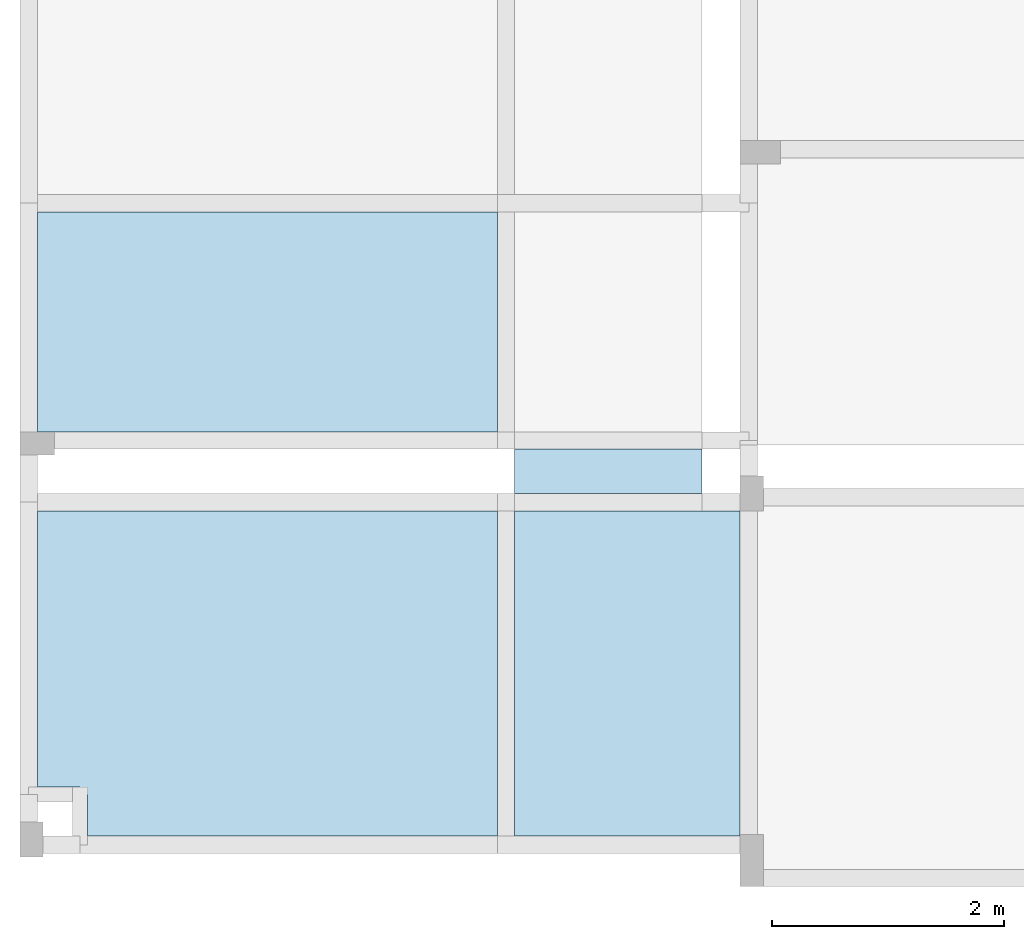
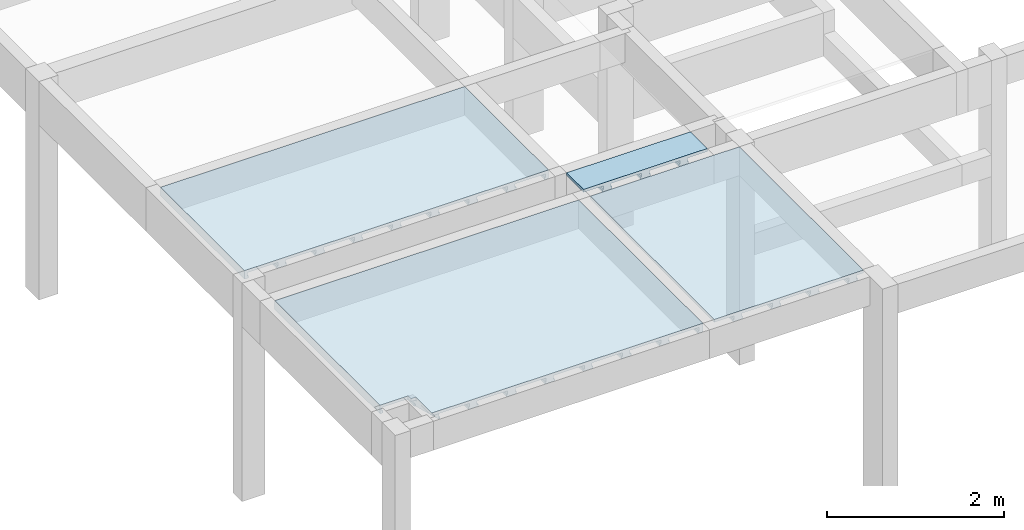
# One storey, part 8 of 21: 4 slabs.
"""IFC4 building model written with IfcOpenShell, lengths in centimetres."""

from ifc_helpers import new_model, si_unit, derived_unit, frame, origin_with_axes, place, context, project, spatial, polyline, outline, extrude, faceted_brep, material, element, save


model = new_model("IFC4")

# Units and contexts
model_context = context("Model", 3, precision=1e-05, world=origin_with_axes(), identifier="Body")
ifc_project = project(units=[si_unit("LENGTHUNIT", "METRE", prefix="CENTI"), si_unit("VOLUMEUNIT", "CUBIC_METRE"), si_unit("AREAUNIT", "SQUARE_METRE"), si_unit("POWERUNIT", "WATT"), si_unit("LUMINOUSFLUXUNIT", "LUMEN"), si_unit("ELECTRICCURRENTUNIT", "AMPERE"), si_unit("PRESSUREUNIT", "PASCAL", prefix="KILO"), si_unit("MASSUNIT", "GRAM", prefix="KILO"), si_unit("PLANEANGLEUNIT", "RADIAN"), derived_unit("VOLUMETRICFLOWRATEUNIT", [(si_unit("LENGTHUNIT", "METRE"), 3), (si_unit("TIMEUNIT", "SECOND"), -1)])], contexts=[model_context])

# Site, building, storey
site_placement = place(None, origin_with_axes())
site = spatial("IfcSite", under=ifc_project, at=site_placement)
building_placement = place(site_placement, frame((0.0, 0.0, -295.0)))
building = spatial("IfcBuilding", under=site, at=building_placement)
placement_1 = place(building_placement, origin_with_axes())
placement_2 = place(placement_1, frame((0.0, 0.0, 101.0), z_axis=(0.0, 0.0, 1.0), x_axis=(1.0, 0.0, 0.0)))
placement_3 = place(placement_2, frame((0.0, 0.0, 204.0), z_axis=(0.0, 0.0, 1.0), x_axis=(1.0, 0.0, 0.0)))
placement_4 = place(placement_3, frame((0.0, 0.0, 292.0), z_axis=(0.0, 0.0, 1.0), x_axis=(1.0, 0.0, 0.0)))
storey_placement = place(placement_4, frame((0.0, 0.0, 302.0), z_axis=(0.0, 0.0, 1.0), x_axis=(1.0, 0.0, 0.0)))
storey = spatial("IfcBuildingStorey", under=building, at=storey_placement, Name="PAVTO 02", CompositionType="ELEMENT", Elevation=604.0)

# Slabs
ifc_material = material(Name="Concreto")
slab_1_placement = place(storey_placement, frame((765.4, -6685.0395, 0.0), z_axis=(0.0, 0.0, 1.0), x_axis=(1.0, 0.0, 0.0)))
element("IfcSlab", 1, at=slab_1_placement, inside=storey, material=ifc_material, Name="L231", PredefinedType="FLOOR", context=model_context, shape_type="SolidModel", body=[
    extrude(outline(polyline([(198.67, 95.0), (-198.669, 95.0), (-198.67, -94.999), (198.67, -94.999), (198.67, 95.0), (198.67, 95.0)])), frame((0.0, -0.0005, -4.0), z_axis=(0.0, 0.0, 1.0), x_axis=(1.0, 0.0, 0.0)), (0.0, 0.0, 1.0), 4.0),
    faceted_brep([(-5.0, -94.9995, -12.0), (-5.0, 94.9995, -12.0), (5.0, 94.9995, -12.0), (5.0, -94.9995, -12.0), (5.0, -94.9995, -4.0), (5.0, 94.9995, -4.0), (-5.0, 94.9995, -4.0), (-5.0, -94.9995, -4.0)], [[[0, 1, 2, 3]], [[4, 5, 6, 7]], [[4, 3, 5]], [[3, 2, 5]], [[5, 2, 6]], [[2, 1, 6]], [[6, 1, 7]], [[1, 0, 7]], [[7, 0, 4]], [[0, 3, 4]]]),
    faceted_brep([(-6.5, -94.9995, -12.0), (-6.5, 94.9995, -12.0), (-5.0, 94.9995, -12.0), (-5.0, -94.9995, -12.0), (-5.0, -94.9995, -9.0), (-5.0, 94.9995, -9.0), (-6.5, 94.9995, -9.0), (-6.5, -94.9995, -9.0)], [[[0, 1, 2, 3]], [[4, 5, 6, 7]], [[4, 3, 5]], [[3, 2, 5]], [[5, 2, 6]], [[2, 1, 6]], [[6, 1, 7]], [[1, 0, 7]], [[7, 0, 4]], [[0, 3, 4]]]),
    faceted_brep([(5.0, -94.9995, -12.0), (5.0, 94.9995, -12.0), (6.5, 94.9995, -12.0), (6.5, -94.9995, -12.0), (6.5, -94.9995, -9.0), (6.5, 94.9995, -9.0), (5.0, 94.9995, -9.0), (5.0, -94.9995, -9.0)], [[[0, 1, 2, 3]], [[4, 5, 6, 7]], [[4, 3, 5]], [[3, 2, 5]], [[5, 2, 6]], [[2, 1, 6]], [[6, 1, 7]], [[1, 0, 7]], [[7, 0, 4]], [[0, 3, 4]]]),
    faceted_brep([(-55.0, -94.9995, -12.0), (-55.0, 94.9995, -12.0), (-45.0, 94.9995, -12.0), (-45.0, -94.9995, -12.0), (-45.0, -94.9995, -4.0), (-45.0, 94.9995, -4.0), (-55.0, 94.9995, -4.0), (-55.0, -94.9995, -4.0)], [[[0, 1, 2, 3]], [[4, 5, 6, 7]], [[4, 3, 5]], [[3, 2, 5]], [[5, 2, 6]], [[2, 1, 6]], [[6, 1, 7]], [[1, 0, 7]], [[7, 0, 4]], [[0, 3, 4]]]),
    faceted_brep([(-56.5, -94.9995, -12.0), (-56.5, 94.9995, -12.0), (-55.0, 94.9995, -12.0), (-55.0, -94.9995, -12.0), (-55.0, -94.9995, -9.0), (-55.0, 94.9995, -9.0), (-56.5, 94.9995, -9.0), (-56.5, -94.9995, -9.0)], [[[0, 1, 2, 3]], [[4, 5, 6, 7]], [[4, 3, 5]], [[3, 2, 5]], [[5, 2, 6]], [[2, 1, 6]], [[6, 1, 7]], [[1, 0, 7]], [[7, 0, 4]], [[0, 3, 4]]]),
    faceted_brep([(-45.0, -94.9995, -12.0), (-45.0, 94.9995, -12.0), (-43.5, 94.9995, -12.0), (-43.5, -94.9995, -12.0), (-43.5, -94.9995, -9.0), (-43.5, 94.9995, -9.0), (-45.0, 94.9995, -9.0), (-45.0, -94.9995, -9.0)], [[[0, 1, 2, 3]], [[4, 5, 6, 7]], [[4, 3, 5]], [[3, 2, 5]], [[5, 2, 6]], [[2, 1, 6]], [[6, 1, 7]], [[1, 0, 7]], [[7, 0, 4]], [[0, 3, 4]]]),
    faceted_brep([(-105.0, -94.9995, -12.0), (-105.0, 94.9995, -12.0), (-95.0, 94.9995, -12.0), (-95.0, -94.9995, -12.0), (-95.0, -94.9995, -4.0), (-95.0, 94.9995, -4.0), (-105.0, 94.9995, -4.0), (-105.0, -94.9995, -4.0)], [[[0, 1, 2, 3]], [[4, 5, 6, 7]], [[4, 3, 5]], [[3, 2, 5]], [[5, 2, 6]], [[2, 1, 6]], [[6, 1, 7]], [[1, 0, 7]], [[7, 0, 4]], [[0, 3, 4]]]),
    faceted_brep([(-106.5, -94.9995, -12.0), (-106.5, 94.9995, -12.0), (-105.0, 94.9995, -12.0), (-105.0, -94.9995, -12.0), (-105.0, -94.9995, -9.0), (-105.0, 94.9995, -9.0), (-106.5, 94.9995, -9.0), (-106.5, -94.9995, -9.0)], [[[0, 1, 2, 3]], [[4, 5, 6, 7]], [[4, 3, 5]], [[3, 2, 5]], [[5, 2, 6]], [[2, 1, 6]], [[6, 1, 7]], [[1, 0, 7]], [[7, 0, 4]], [[0, 3, 4]]]),
    faceted_brep([(-95.0, -94.9995, -12.0), (-95.0, 94.9995, -12.0), (-93.5, 94.9995, -12.0), (-93.5, -94.9995, -12.0), (-93.5, -94.9995, -9.0), (-93.5, 94.9995, -9.0), (-95.0, 94.9995, -9.0), (-95.0, -94.9995, -9.0)], [[[0, 1, 2, 3]], [[4, 5, 6, 7]], [[4, 3, 5]], [[3, 2, 5]], [[5, 2, 6]], [[2, 1, 6]], [[6, 1, 7]], [[1, 0, 7]], [[7, 0, 4]], [[0, 3, 4]]]),
    faceted_brep([(-155.0, -94.9995, -12.0), (-155.0, 94.9995, -12.0), (-145.0, 94.9995, -12.0), (-145.0, -94.9995, -12.0), (-145.0, -94.9995, -4.0), (-145.0, 94.9995, -4.0), (-155.0, 94.9995, -4.0), (-155.0, -94.9995, -4.0)], [[[0, 1, 2, 3]], [[4, 5, 6, 7]], [[4, 3, 5]], [[3, 2, 5]], [[5, 2, 6]], [[2, 1, 6]], [[6, 1, 7]], [[1, 0, 7]], [[7, 0, 4]], [[0, 3, 4]]]),
    faceted_brep([(-156.5, -94.9995, -12.0), (-156.5, 94.9995, -12.0), (-155.0, 94.9995, -12.0), (-155.0, -94.9995, -12.0), (-155.0, -94.9995, -9.0), (-155.0, 94.9995, -9.0), (-156.5, 94.9995, -9.0), (-156.5, -94.9995, -9.0)], [[[0, 1, 2, 3]], [[4, 5, 6, 7]], [[4, 3, 5]], [[3, 2, 5]], [[5, 2, 6]], [[2, 1, 6]], [[6, 1, 7]], [[1, 0, 7]], [[7, 0, 4]], [[0, 3, 4]]]),
    faceted_brep([(-145.0, -94.9995, -12.0), (-145.0, 94.9995, -12.0), (-143.5, 94.9995, -12.0), (-143.5, -94.9995, -12.0), (-143.5, -94.9995, -9.0), (-143.5, 94.9995, -9.0), (-145.0, 94.9995, -9.0), (-145.0, -94.9995, -9.0)], [[[0, 1, 2, 3]], [[4, 5, 6, 7]], [[4, 3, 5]], [[3, 2, 5]], [[5, 2, 6]], [[2, 1, 6]], [[6, 1, 7]], [[1, 0, 7]], [[7, 0, 4]], [[0, 3, 4]]]),
    faceted_brep([(-198.6695, -94.9995, -12.0), (-198.6695, 94.9995, -12.0), (-195.0, 94.9995, -12.0), (-195.0, -94.9995, -12.0), (-195.0, -94.9995, -4.0), (-195.0, 94.9995, -4.0), (-198.6695, 94.9995, -4.0), (-198.6695, -94.9995, -4.0)], [[[0, 1, 2, 3]], [[4, 5, 6, 7]], [[4, 3, 5]], [[3, 2, 5]], [[5, 2, 6]], [[2, 1, 6]], [[6, 1, 7]], [[1, 0, 7]], [[7, 0, 4]], [[0, 3, 4]]]),
    faceted_brep([(-195.0, -94.9995, -12.0), (-195.0, 94.9995, -12.0), (-193.5, 94.9995, -12.0), (-193.5, -94.9995, -12.0), (-193.5, -94.9995, -9.0), (-193.5, 94.9995, -9.0), (-195.0, 94.9995, -9.0), (-195.0, -94.9995, -9.0)], [[[0, 1, 2, 3]], [[4, 5, 6, 7]], [[4, 3, 5]], [[3, 2, 5]], [[5, 2, 6]], [[2, 1, 6]], [[6, 1, 7]], [[1, 0, 7]], [[7, 0, 4]], [[0, 3, 4]]]),
    faceted_brep([(45.0, -94.9995, -12.0), (45.0, 94.9995, -12.0), (55.0, 94.9995, -12.0), (55.0, -94.9995, -12.0), (55.0, -94.9995, -4.0), (55.0, 94.9995, -4.0), (45.0, 94.9995, -4.0), (45.0, -94.9995, -4.0)], [[[0, 1, 2, 3]], [[4, 5, 6, 7]], [[4, 3, 5]], [[3, 2, 5]], [[5, 2, 6]], [[2, 1, 6]], [[6, 1, 7]], [[1, 0, 7]], [[7, 0, 4]], [[0, 3, 4]]]),
    faceted_brep([(43.5, -94.9995, -12.0), (43.5, 94.9995, -12.0), (45.0, 94.9995, -12.0), (45.0, -94.9995, -12.0), (45.0, -94.9995, -9.0), (45.0, 94.9995, -9.0), (43.5, 94.9995, -9.0), (43.5, -94.9995, -9.0)], [[[0, 1, 2, 3]], [[4, 5, 6, 7]], [[4, 3, 5]], [[3, 2, 5]], [[5, 2, 6]], [[2, 1, 6]], [[6, 1, 7]], [[1, 0, 7]], [[7, 0, 4]], [[0, 3, 4]]]),
    faceted_brep([(55.0, -94.9995, -12.0), (55.0, 94.9995, -12.0), (56.5, 94.9995, -12.0), (56.5, -94.9995, -12.0), (56.5, -94.9995, -9.0), (56.5, 94.9995, -9.0), (55.0, 94.9995, -9.0), (55.0, -94.9995, -9.0)], [[[0, 1, 2, 3]], [[4, 5, 6, 7]], [[4, 3, 5]], [[3, 2, 5]], [[5, 2, 6]], [[2, 1, 6]], [[6, 1, 7]], [[1, 0, 7]], [[7, 0, 4]], [[0, 3, 4]]]),
    faceted_brep([(95.0, -94.9995, -12.0), (95.0, 94.9995, -12.0), (105.0, 94.9995, -12.0), (105.0, -94.9995, -12.0), (105.0, -94.9995, -4.0), (105.0, 94.9995, -4.0), (95.0, 94.9995, -4.0), (95.0, -94.9995, -4.0)], [[[0, 1, 2, 3]], [[4, 5, 6, 7]], [[4, 3, 5]], [[3, 2, 5]], [[5, 2, 6]], [[2, 1, 6]], [[6, 1, 7]], [[1, 0, 7]], [[7, 0, 4]], [[0, 3, 4]]]),
    faceted_brep([(93.5, -94.9995, -12.0), (93.5, 94.9995, -12.0), (95.0, 94.9995, -12.0), (95.0, -94.9995, -12.0), (95.0, -94.9995, -9.0), (95.0, 94.9995, -9.0), (93.5, 94.9995, -9.0), (93.5, -94.9995, -9.0)], [[[0, 1, 2, 3]], [[4, 5, 6, 7]], [[4, 3, 5]], [[3, 2, 5]], [[5, 2, 6]], [[2, 1, 6]], [[6, 1, 7]], [[1, 0, 7]], [[7, 0, 4]], [[0, 3, 4]]]),
    faceted_brep([(105.0, -94.9995, -12.0), (105.0, 94.9995, -12.0), (106.5, 94.9995, -12.0), (106.5, -94.9995, -12.0), (106.5, -94.9995, -9.0), (106.5, 94.9995, -9.0), (105.0, 94.9995, -9.0), (105.0, -94.9995, -9.0)], [[[0, 1, 2, 3]], [[4, 5, 6, 7]], [[4, 3, 5]], [[3, 2, 5]], [[5, 2, 6]], [[2, 1, 6]], [[6, 1, 7]], [[1, 0, 7]], [[7, 0, 4]], [[0, 3, 4]]]),
    faceted_brep([(145.0, -94.9995, -12.0), (145.0, 94.9995, -12.0), (155.0, 94.9995, -12.0), (155.0, -94.9995, -12.0), (155.0, -94.9995, -4.0), (155.0, 94.9995, -4.0), (145.0, 94.9995, -4.0), (145.0, -94.9995, -4.0)], [[[0, 1, 2, 3]], [[4, 5, 6, 7]], [[4, 3, 5]], [[3, 2, 5]], [[5, 2, 6]], [[2, 1, 6]], [[6, 1, 7]], [[1, 0, 7]], [[7, 0, 4]], [[0, 3, 4]]]),
    faceted_brep([(143.5, -94.9995, -12.0), (143.5, 94.9995, -12.0), (145.0, 94.9995, -12.0), (145.0, -94.9995, -12.0), (145.0, -94.9995, -9.0), (145.0, 94.9995, -9.0), (143.5, 94.9995, -9.0), (143.5, -94.9995, -9.0)], [[[0, 1, 2, 3]], [[4, 5, 6, 7]], [[4, 3, 5]], [[3, 2, 5]], [[5, 2, 6]], [[2, 1, 6]], [[6, 1, 7]], [[1, 0, 7]], [[7, 0, 4]], [[0, 3, 4]]]),
    faceted_brep([(155.0, -94.9995, -12.0), (155.0, 94.9995, -12.0), (156.5, 94.9995, -12.0), (156.5, -94.9995, -12.0), (156.5, -94.9995, -9.0), (156.5, 94.9995, -9.0), (155.0, 94.9995, -9.0), (155.0, -94.9995, -9.0)], [[[0, 1, 2, 3]], [[4, 5, 6, 7]], [[4, 3, 5]], [[3, 2, 5]], [[5, 2, 6]], [[2, 1, 6]], [[6, 1, 7]], [[1, 0, 7]], [[7, 0, 4]], [[0, 3, 4]]]),
    faceted_brep([(195.0, -94.9995, -12.0), (195.0, 94.9995, -12.0), (198.67, 94.9995, -12.0), (198.67, -94.9995, -12.0), (198.67, -94.9995, -4.0), (198.67, 94.9995, -4.0), (195.0, 94.9995, -4.0), (195.0, -94.9995, -4.0)], [[[0, 1, 2, 3]], [[4, 5, 6, 7]], [[4, 3, 5]], [[3, 2, 5]], [[5, 2, 6]], [[2, 1, 6]], [[6, 1, 7]], [[1, 0, 7]], [[7, 0, 4]], [[0, 3, 4]]]),
    faceted_brep([(193.5, -94.9995, -12.0), (193.5, 94.9995, -12.0), (195.0, 94.9995, -12.0), (195.0, -94.9995, -12.0), (195.0, -94.9995, -9.0), (195.0, 94.9995, -9.0), (193.5, 94.9995, -9.0), (193.5, -94.9995, -9.0)], [[[0, 1, 2, 3]], [[4, 5, 6, 7]], [[4, 3, 5]], [[3, 2, 5]], [[5, 2, 6]], [[2, 1, 6]], [[6, 1, 7]], [[1, 0, 7]], [[7, 0, 4]], [[0, 3, 4]]]),
])
slab_2_placement = place(storey_placement, frame((1059.9855, -6814.195, 0.0), z_axis=(0.0, 0.0, 1.0), x_axis=(1.0, 0.0, 0.0)))
element("IfcSlab", 2, at=slab_2_placement, inside=storey, material=ifc_material, Name="L235", PredefinedType="FLOOR", context=model_context, shape_type="SolidModel", body=[
    extrude(outline(polyline([(80.915, 19.155), (-80.914, 19.155), (-80.914, -19.155), (80.915, -19.155), (80.915, 19.155), (80.915, 19.155)])), frame((-0.0005, 0.0, -4.0), z_axis=(0.0, 0.0, 1.0), x_axis=(1.0, 0.0, 0.0)), (0.0, 0.0, 1.0), 4.0),
    faceted_brep([(-5.0005, -19.155, -12.0), (-5.0005, 19.155, -12.0), (4.9995, 19.155, -12.0), (4.9995, -19.155, -12.0), (4.9995, -19.155, -4.0), (4.9995, 19.155, -4.0), (-5.0005, 19.155, -4.0), (-5.0005, -19.155, -4.0)], [[[0, 1, 2, 3]], [[4, 5, 6, 7]], [[4, 3, 5]], [[3, 2, 5]], [[5, 2, 6]], [[2, 1, 6]], [[6, 1, 7]], [[1, 0, 7]], [[7, 0, 4]], [[0, 3, 4]]]),
    faceted_brep([(-6.5005, -19.155, -12.0), (-6.5005, 19.155, -12.0), (-5.0005, 19.155, -12.0), (-5.0005, -19.155, -12.0), (-5.0005, -19.155, -9.0), (-5.0005, 19.155, -9.0), (-6.5005, 19.155, -9.0), (-6.5005, -19.155, -9.0)], [[[0, 1, 2, 3]], [[4, 5, 6, 7]], [[4, 3, 5]], [[3, 2, 5]], [[5, 2, 6]], [[2, 1, 6]], [[6, 1, 7]], [[1, 0, 7]], [[7, 0, 4]], [[0, 3, 4]]]),
    faceted_brep([(4.9995, -19.155, -12.0), (4.9995, 19.155, -12.0), (6.4995, 19.155, -12.0), (6.4995, -19.155, -12.0), (6.4995, -19.155, -9.0), (6.4995, 19.155, -9.0), (4.9995, 19.155, -9.0), (4.9995, -19.155, -9.0)], [[[0, 1, 2, 3]], [[4, 5, 6, 7]], [[4, 3, 5]], [[3, 2, 5]], [[5, 2, 6]], [[2, 1, 6]], [[6, 1, 7]], [[1, 0, 7]], [[7, 0, 4]], [[0, 3, 4]]]),
    faceted_brep([(-55.0005, -19.155, -12.0), (-55.0005, 19.155, -12.0), (-45.0005, 19.155, -12.0), (-45.0005, -19.155, -12.0), (-45.0005, -19.155, -4.0), (-45.0005, 19.155, -4.0), (-55.0005, 19.155, -4.0), (-55.0005, -19.155, -4.0)], [[[0, 1, 2, 3]], [[4, 5, 6, 7]], [[4, 3, 5]], [[3, 2, 5]], [[5, 2, 6]], [[2, 1, 6]], [[6, 1, 7]], [[1, 0, 7]], [[7, 0, 4]], [[0, 3, 4]]]),
    faceted_brep([(-56.5005, -19.155, -12.0), (-56.5005, 19.155, -12.0), (-55.0005, 19.155, -12.0), (-55.0005, -19.155, -12.0), (-55.0005, -19.155, -9.0), (-55.0005, 19.155, -9.0), (-56.5005, 19.155, -9.0), (-56.5005, -19.155, -9.0)], [[[0, 1, 2, 3]], [[4, 5, 6, 7]], [[4, 3, 5]], [[3, 2, 5]], [[5, 2, 6]], [[2, 1, 6]], [[6, 1, 7]], [[1, 0, 7]], [[7, 0, 4]], [[0, 3, 4]]]),
    faceted_brep([(-45.0005, -19.155, -12.0), (-45.0005, 19.155, -12.0), (-43.5005, 19.155, -12.0), (-43.5005, -19.155, -12.0), (-43.5005, -19.155, -9.0), (-43.5005, 19.155, -9.0), (-45.0005, 19.155, -9.0), (-45.0005, -19.155, -9.0)], [[[0, 1, 2, 3]], [[4, 5, 6, 7]], [[4, 3, 5]], [[3, 2, 5]], [[5, 2, 6]], [[2, 1, 6]], [[6, 1, 7]], [[1, 0, 7]], [[7, 0, 4]], [[0, 3, 4]]]),
    faceted_brep([(44.9995, -19.155, -12.0), (44.9995, 19.155, -12.0), (54.9995, 19.155, -12.0), (54.9995, -19.155, -12.0), (54.9995, -19.155, -4.0), (54.9995, 19.155, -4.0), (44.9995, 19.155, -4.0), (44.9995, -19.155, -4.0)], [[[0, 1, 2, 3]], [[4, 5, 6, 7]], [[4, 3, 5]], [[3, 2, 5]], [[5, 2, 6]], [[2, 1, 6]], [[6, 1, 7]], [[1, 0, 7]], [[7, 0, 4]], [[0, 3, 4]]]),
    faceted_brep([(43.4995, -19.155, -12.0), (43.4995, 19.155, -12.0), (44.9995, 19.155, -12.0), (44.9995, -19.155, -12.0), (44.9995, -19.155, -9.0), (44.9995, 19.155, -9.0), (43.4995, 19.155, -9.0), (43.4995, -19.155, -9.0)], [[[0, 1, 2, 3]], [[4, 5, 6, 7]], [[4, 3, 5]], [[3, 2, 5]], [[5, 2, 6]], [[2, 1, 6]], [[6, 1, 7]], [[1, 0, 7]], [[7, 0, 4]], [[0, 3, 4]]]),
    faceted_brep([(54.9995, -19.155, -12.0), (54.9995, 19.155, -12.0), (56.4995, 19.155, -12.0), (56.4995, -19.155, -12.0), (56.4995, -19.155, -9.0), (56.4995, 19.155, -9.0), (54.9995, 19.155, -9.0), (54.9995, -19.155, -9.0)], [[[0, 1, 2, 3]], [[4, 5, 6, 7]], [[4, 3, 5]], [[3, 2, 5]], [[5, 2, 6]], [[2, 1, 6]], [[6, 1, 7]], [[1, 0, 7]], [[7, 0, 4]], [[0, 3, 4]]]),
])
slab_3_placement = place(storey_placement, frame((765.4, -6988.8455, 0.0), z_axis=(0.0, 0.0, 1.0), x_axis=(1.0, 0.0, 0.0)))
element("IfcSlab", 3, at=slab_3_placement, inside=storey, material=ifc_material, Name="L236", PredefinedType="FLOOR", context=model_context, shape_type="SolidModel", body=[
    extrude(outline(polyline([(198.67, 140.494), (-198.67, 140.494), (-198.669, -97.855), (-161.949, -97.854), (-161.949, -104.354), (-155.449, -104.354), (-155.449, -140.495), (198.669, -140.495), (198.67, 140.494), (198.67, 140.494)])), frame((0.0, 0.0005, -4.0), z_axis=(0.0, 0.0, 1.0), x_axis=(1.0, 0.0, 0.0)), (0.0, 0.0, 1.0), 4.0),
    faceted_brep([(43.67, -140.4945, -12.0), (43.67, 140.4945, -12.0), (53.67, 140.4945, -12.0), (53.67, -140.4945, -12.0), (53.67, -140.4945, -4.0), (53.67, 140.4945, -4.0), (43.67, 140.4945, -4.0), (43.67, -140.4945, -4.0)], [[[0, 1, 2, 3]], [[4, 5, 6, 7]], [[4, 3, 5]], [[3, 2, 5]], [[5, 2, 6]], [[2, 1, 6]], [[6, 1, 7]], [[1, 0, 7]], [[7, 0, 4]], [[0, 3, 4]]]),
    faceted_brep([(42.17, -140.4945, -12.0), (42.17, 140.4945, -12.0), (43.67, 140.4945, -12.0), (43.67, -140.4945, -12.0), (43.67, -140.4945, -9.0), (43.67, 140.4945, -9.0), (42.17, 140.4945, -9.0), (42.17, -140.4945, -9.0)], [[[0, 1, 2, 3]], [[4, 5, 6, 7]], [[4, 3, 5]], [[3, 2, 5]], [[5, 2, 6]], [[2, 1, 6]], [[6, 1, 7]], [[1, 0, 7]], [[7, 0, 4]], [[0, 3, 4]]]),
    faceted_brep([(53.67, -140.4945, -12.0), (53.67, 140.4945, -12.0), (55.17, 140.4945, -12.0), (55.17, -140.4945, -12.0), (55.17, -140.4945, -9.0), (55.17, 140.4945, -9.0), (53.67, 140.4945, -9.0), (53.67, -140.4945, -9.0)], [[[0, 1, 2, 3]], [[4, 5, 6, 7]], [[4, 3, 5]], [[3, 2, 5]], [[5, 2, 6]], [[2, 1, 6]], [[6, 1, 7]], [[1, 0, 7]], [[7, 0, 4]], [[0, 3, 4]]]),
    faceted_brep([(-6.33, -140.4945, -12.0), (-6.33, 140.4945, -12.0), (3.67, 140.4945, -12.0), (3.67, -140.4945, -12.0), (3.67, -140.4945, -4.0), (3.67, 140.4945, -4.0), (-6.33, 140.4945, -4.0), (-6.33, -140.4945, -4.0)], [[[0, 1, 2, 3]], [[4, 5, 6, 7]], [[4, 3, 5]], [[3, 2, 5]], [[5, 2, 6]], [[2, 1, 6]], [[6, 1, 7]], [[1, 0, 7]], [[7, 0, 4]], [[0, 3, 4]]]),
    faceted_brep([(-7.83, -140.4945, -12.0), (-7.83, 140.4945, -12.0), (-6.33, 140.4945, -12.0), (-6.33, -140.4945, -12.0), (-6.33, -140.4945, -9.0), (-6.33, 140.4945, -9.0), (-7.83, 140.4945, -9.0), (-7.83, -140.4945, -9.0)], [[[0, 1, 2, 3]], [[4, 5, 6, 7]], [[4, 3, 5]], [[3, 2, 5]], [[5, 2, 6]], [[2, 1, 6]], [[6, 1, 7]], [[1, 0, 7]], [[7, 0, 4]], [[0, 3, 4]]]),
    faceted_brep([(3.67, -140.4945, -12.0), (3.67, 140.4945, -12.0), (5.17, 140.4945, -12.0), (5.17, -140.4945, -12.0), (5.17, -140.4945, -9.0), (5.17, 140.4945, -9.0), (3.67, 140.4945, -9.0), (3.67, -140.4945, -9.0)], [[[0, 1, 2, 3]], [[4, 5, 6, 7]], [[4, 3, 5]], [[3, 2, 5]], [[5, 2, 6]], [[2, 1, 6]], [[6, 1, 7]], [[1, 0, 7]], [[7, 0, 4]], [[0, 3, 4]]]),
    faceted_brep([(-56.33, -140.4945, -12.0), (-56.33, 140.4945, -12.0), (-46.33, 140.4945, -12.0), (-46.33, -140.4945, -12.0), (-46.33, -140.4945, -4.0), (-46.33, 140.4945, -4.0), (-56.33, 140.4945, -4.0), (-56.33, -140.4945, -4.0)], [[[0, 1, 2, 3]], [[4, 5, 6, 7]], [[4, 3, 5]], [[3, 2, 5]], [[5, 2, 6]], [[2, 1, 6]], [[6, 1, 7]], [[1, 0, 7]], [[7, 0, 4]], [[0, 3, 4]]]),
    faceted_brep([(-57.83, -140.4945, -12.0), (-57.83, 140.4945, -12.0), (-56.33, 140.4945, -12.0), (-56.33, -140.4945, -12.0), (-56.33, -140.4945, -9.0), (-56.33, 140.4945, -9.0), (-57.83, 140.4945, -9.0), (-57.83, -140.4945, -9.0)], [[[0, 1, 2, 3]], [[4, 5, 6, 7]], [[4, 3, 5]], [[3, 2, 5]], [[5, 2, 6]], [[2, 1, 6]], [[6, 1, 7]], [[1, 0, 7]], [[7, 0, 4]], [[0, 3, 4]]]),
    faceted_brep([(-46.33, -140.4945, -12.0), (-46.33, 140.4945, -12.0), (-44.83, 140.4945, -12.0), (-44.83, -140.4945, -12.0), (-44.83, -140.4945, -9.0), (-44.83, 140.4945, -9.0), (-46.33, 140.4945, -9.0), (-46.33, -140.4945, -9.0)], [[[0, 1, 2, 3]], [[4, 5, 6, 7]], [[4, 3, 5]], [[3, 2, 5]], [[5, 2, 6]], [[2, 1, 6]], [[6, 1, 7]], [[1, 0, 7]], [[7, 0, 4]], [[0, 3, 4]]]),
    faceted_brep([(-106.33, -140.4945, -12.0), (-106.33, 140.4945, -12.0), (-96.33, 140.4945, -12.0), (-96.33, -140.4945, -12.0), (-96.33, -140.4945, -4.0), (-96.33, 140.4945, -4.0), (-106.33, 140.4945, -4.0), (-106.33, -140.4945, -4.0)], [[[0, 1, 2, 3]], [[4, 5, 6, 7]], [[4, 3, 5]], [[3, 2, 5]], [[5, 2, 6]], [[2, 1, 6]], [[6, 1, 7]], [[1, 0, 7]], [[7, 0, 4]], [[0, 3, 4]]]),
    faceted_brep([(-107.83, -140.4945, -12.0), (-107.83, 140.4945, -12.0), (-106.33, 140.4945, -12.0), (-106.33, -140.4945, -12.0), (-106.33, -140.4945, -9.0), (-106.33, 140.4945, -9.0), (-107.83, 140.4945, -9.0), (-107.83, -140.4945, -9.0)], [[[0, 1, 2, 3]], [[4, 5, 6, 7]], [[4, 3, 5]], [[3, 2, 5]], [[5, 2, 6]], [[2, 1, 6]], [[6, 1, 7]], [[1, 0, 7]], [[7, 0, 4]], [[0, 3, 4]]]),
    faceted_brep([(-96.33, -140.4945, -12.0), (-96.33, 140.4945, -12.0), (-94.83, 140.4945, -12.0), (-94.83, -140.4945, -12.0), (-94.83, -140.4945, -9.0), (-94.83, 140.4945, -9.0), (-96.33, 140.4945, -9.0), (-96.33, -140.4945, -9.0)], [[[0, 1, 2, 3]], [[4, 5, 6, 7]], [[4, 3, 5]], [[3, 2, 5]], [[5, 2, 6]], [[2, 1, 6]], [[6, 1, 7]], [[1, 0, 7]], [[7, 0, 4]], [[0, 3, 4]]]),
    faceted_brep([(-156.33, -104.3535, -12.0), (-156.33, 140.4945, -12.0), (-146.33, 140.4945, -12.0), (-146.33, -140.4945, -12.0), (-146.33, -140.4945, -4.0), (-146.33, 140.4945, -4.0), (-156.33, 140.4945, -4.0), (-156.33, -104.3535, -4.0)], [[[0, 1, 2, 3]], [[4, 5, 6, 7]], [[4, 3, 5]], [[3, 2, 5]], [[5, 2, 6]], [[2, 1, 6]], [[6, 1, 7]], [[1, 0, 7]], [[7, 0, 4]], [[0, 3, 4]]]),
    faceted_brep([(-157.83, -104.3535, -12.0), (-157.83, 140.4945, -12.0), (-156.33, 140.4945, -12.0), (-156.33, -104.3535, -12.0), (-156.33, -104.3535, -9.0), (-156.33, 140.4945, -9.0), (-157.83, 140.4945, -9.0), (-157.83, -104.3535, -9.0)], [[[0, 1, 2, 3]], [[4, 5, 6, 7]], [[4, 3, 5]], [[3, 2, 5]], [[5, 2, 6]], [[2, 1, 6]], [[6, 1, 7]], [[1, 0, 7]], [[7, 0, 4]], [[0, 3, 4]]]),
    faceted_brep([(-146.33, -140.4945, -12.0), (-146.33, 140.4945, -12.0), (-144.83, 140.4945, -12.0), (-144.83, -140.4945, -12.0), (-144.83, -140.4945, -9.0), (-144.83, 140.4945, -9.0), (-146.33, 140.4945, -9.0), (-146.33, -140.4945, -9.0)], [[[0, 1, 2, 3]], [[4, 5, 6, 7]], [[4, 3, 5]], [[3, 2, 5]], [[5, 2, 6]], [[2, 1, 6]], [[6, 1, 7]], [[1, 0, 7]], [[7, 0, 4]], [[0, 3, 4]]]),
    faceted_brep([(-198.6695, -97.85443630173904, -12.0), (-198.6695, 140.4945, -12.0), (-196.33, 140.4945, -12.0), (-196.33, -97.854, -12.0), (-196.33, -97.854, -4.0), (-196.33, 140.4945, -4.0), (-198.6695, 140.4945, -4.0), (-198.6695, -97.85443630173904, -4.0)], [[[0, 1, 2, 3]], [[4, 5, 6, 7]], [[4, 3, 5]], [[3, 2, 5]], [[5, 2, 6]], [[2, 1, 6]], [[6, 1, 7]], [[1, 0, 7]], [[7, 0, 4]], [[0, 3, 4]]]),
    faceted_brep([(-196.33, -97.854, -12.0), (-196.33, 140.4945, -12.0), (-194.83, 140.4945, -12.0), (-194.83, -97.854, -12.0), (-194.83, -97.854, -9.0), (-194.83, 140.4945, -9.0), (-196.33, 140.4945, -9.0), (-196.33, -97.854, -9.0)], [[[0, 1, 2, 3]], [[4, 5, 6, 7]], [[4, 3, 5]], [[3, 2, 5]], [[5, 2, 6]], [[2, 1, 6]], [[6, 1, 7]], [[1, 0, 7]], [[7, 0, 4]], [[0, 3, 4]]]),
    faceted_brep([(93.67, -140.4945, -12.0), (93.67, 140.4945, -12.0), (103.67, 140.4945, -12.0), (103.67, -140.4945, -12.0), (103.67, -140.4945, -4.0), (103.67, 140.4945, -4.0), (93.67, 140.4945, -4.0), (93.67, -140.4945, -4.0)], [[[0, 1, 2, 3]], [[4, 5, 6, 7]], [[4, 3, 5]], [[3, 2, 5]], [[5, 2, 6]], [[2, 1, 6]], [[6, 1, 7]], [[1, 0, 7]], [[7, 0, 4]], [[0, 3, 4]]]),
    faceted_brep([(92.17, -140.4945, -12.0), (92.17, 140.4945, -12.0), (93.67, 140.4945, -12.0), (93.67, -140.4945, -12.0), (93.67, -140.4945, -9.0), (93.67, 140.4945, -9.0), (92.17, 140.4945, -9.0), (92.17, -140.4945, -9.0)], [[[0, 1, 2, 3]], [[4, 5, 6, 7]], [[4, 3, 5]], [[3, 2, 5]], [[5, 2, 6]], [[2, 1, 6]], [[6, 1, 7]], [[1, 0, 7]], [[7, 0, 4]], [[0, 3, 4]]]),
    faceted_brep([(103.67, -140.4945, -12.0), (103.67, 140.4945, -12.0), (105.17, 140.4945, -12.0), (105.17, -140.4945, -12.0), (105.17, -140.4945, -9.0), (105.17, 140.4945, -9.0), (103.67, 140.4945, -9.0), (103.67, -140.4945, -9.0)], [[[0, 1, 2, 3]], [[4, 5, 6, 7]], [[4, 3, 5]], [[3, 2, 5]], [[5, 2, 6]], [[2, 1, 6]], [[6, 1, 7]], [[1, 0, 7]], [[7, 0, 4]], [[0, 3, 4]]]),
    faceted_brep([(143.67, -140.4945, -12.0), (143.67, 140.4945, -12.0), (153.67, 140.4945, -12.0), (153.67, -140.4945, -12.0), (153.67, -140.4945, -4.0), (153.67, 140.4945, -4.0), (143.67, 140.4945, -4.0), (143.67, -140.4945, -4.0)], [[[0, 1, 2, 3]], [[4, 5, 6, 7]], [[4, 3, 5]], [[3, 2, 5]], [[5, 2, 6]], [[2, 1, 6]], [[6, 1, 7]], [[1, 0, 7]], [[7, 0, 4]], [[0, 3, 4]]]),
    faceted_brep([(142.17, -140.4945, -12.0), (142.17, 140.4945, -12.0), (143.67, 140.4945, -12.0), (143.67, -140.4945, -12.0), (143.67, -140.4945, -9.0), (143.67, 140.4945, -9.0), (142.17, 140.4945, -9.0), (142.17, -140.4945, -9.0)], [[[0, 1, 2, 3]], [[4, 5, 6, 7]], [[4, 3, 5]], [[3, 2, 5]], [[5, 2, 6]], [[2, 1, 6]], [[6, 1, 7]], [[1, 0, 7]], [[7, 0, 4]], [[0, 3, 4]]]),
    faceted_brep([(153.67, -140.4945, -12.0), (153.67, 140.4945, -12.0), (155.17, 140.4945, -12.0), (155.17, -140.4945, -12.0), (155.17, -140.4945, -9.0), (155.17, 140.4945, -9.0), (153.67, 140.4945, -9.0), (153.67, -140.4945, -9.0)], [[[0, 1, 2, 3]], [[4, 5, 6, 7]], [[4, 3, 5]], [[3, 2, 5]], [[5, 2, 6]], [[2, 1, 6]], [[6, 1, 7]], [[1, 0, 7]], [[7, 0, 4]], [[0, 3, 4]]]),
    faceted_brep([(193.67, -140.4945, -12.0), (193.67, 140.4945, -12.0), (198.6695, 140.4945, -12.0), (198.6695, -140.4945, -12.0), (198.6695, -140.4945, -4.0), (198.6695, 140.4945, -4.0), (193.67, 140.4945, -4.0), (193.67, -140.4945, -4.0)], [[[0, 1, 2, 3]], [[4, 5, 6, 7]], [[4, 3, 5]], [[3, 2, 5]], [[5, 2, 6]], [[2, 1, 6]], [[6, 1, 7]], [[1, 0, 7]], [[7, 0, 4]], [[0, 3, 4]]]),
    faceted_brep([(192.17, -140.4945, -12.0), (192.17, 140.4945, -12.0), (193.67, 140.4945, -12.0), (193.67, -140.4945, -12.0), (193.67, -140.4945, -9.0), (193.67, 140.4945, -9.0), (192.17, 140.4945, -9.0), (192.17, -140.4945, -9.0)], [[[0, 1, 2, 3]], [[4, 5, 6, 7]], [[4, 3, 5]], [[3, 2, 5]], [[5, 2, 6]], [[2, 1, 6]], [[6, 1, 7]], [[1, 0, 7]], [[7, 0, 4]], [[0, 3, 4]]]),
])
slab_4_placement = place(storey_placement, frame((1076.485, -6988.8455, 0.0), z_axis=(0.0, 0.0, 1.0), x_axis=(1.0, 0.0, 0.0)))
element("IfcSlab", 4, at=slab_4_placement, inside=storey, material=ifc_material, Name="L237", PredefinedType="FLOOR", context=model_context, shape_type="SolidModel", body=[
    extrude(outline(polyline([(97.414, -140.495), (97.415, 140.494), (-97.414, 140.494), (-97.415, -140.495), (97.414, -140.495), (97.414, -140.495)])), frame((0.0, 0.0005, -4.0), z_axis=(0.0, 0.0, 1.0), x_axis=(1.0, 0.0, 0.0)), (0.0, 0.0, 1.0), 4.0),
    faceted_brep([(28.5, -140.4945, -12.0), (28.5, 140.4945, -12.0), (38.5, 140.4945, -12.0), (38.5, -140.4945, -12.0), (38.5, -140.4945, -4.0), (38.5, 140.4945, -4.0), (28.5, 140.4945, -4.0), (28.5, -140.4945, -4.0)], [[[0, 1, 2, 3]], [[4, 5, 6, 7]], [[4, 3, 5]], [[3, 2, 5]], [[5, 2, 6]], [[2, 1, 6]], [[6, 1, 7]], [[1, 0, 7]], [[7, 0, 4]], [[0, 3, 4]]]),
    faceted_brep([(27.0, -140.4945, -12.0), (27.0, 140.4945, -12.0), (28.5, 140.4945, -12.0), (28.5, -140.4945, -12.0), (28.5, -140.4945, -9.0), (28.5, 140.4945, -9.0), (27.0, 140.4945, -9.0), (27.0, -140.4945, -9.0)], [[[0, 1, 2, 3]], [[4, 5, 6, 7]], [[4, 3, 5]], [[3, 2, 5]], [[5, 2, 6]], [[2, 1, 6]], [[6, 1, 7]], [[1, 0, 7]], [[7, 0, 4]], [[0, 3, 4]]]),
    faceted_brep([(38.5, -140.4945, -12.0), (38.5, 140.4945, -12.0), (40.0, 140.4945, -12.0), (40.0, -140.4945, -12.0), (40.0, -140.4945, -9.0), (40.0, 140.4945, -9.0), (38.5, 140.4945, -9.0), (38.5, -140.4945, -9.0)], [[[0, 1, 2, 3]], [[4, 5, 6, 7]], [[4, 3, 5]], [[3, 2, 5]], [[5, 2, 6]], [[2, 1, 6]], [[6, 1, 7]], [[1, 0, 7]], [[7, 0, 4]], [[0, 3, 4]]]),
    faceted_brep([(-21.5, -140.4945, -12.0), (-21.5, 140.4945, -12.0), (-11.5, 140.4945, -12.0), (-11.5, -140.4945, -12.0), (-11.5, -140.4945, -4.0), (-11.5, 140.4945, -4.0), (-21.5, 140.4945, -4.0), (-21.5, -140.4945, -4.0)], [[[0, 1, 2, 3]], [[4, 5, 6, 7]], [[4, 3, 5]], [[3, 2, 5]], [[5, 2, 6]], [[2, 1, 6]], [[6, 1, 7]], [[1, 0, 7]], [[7, 0, 4]], [[0, 3, 4]]]),
    faceted_brep([(-23.0, -140.4945, -12.0), (-23.0, 140.4945, -12.0), (-21.5, 140.4945, -12.0), (-21.5, -140.4945, -12.0), (-21.5, -140.4945, -9.0), (-21.5, 140.4945, -9.0), (-23.0, 140.4945, -9.0), (-23.0, -140.4945, -9.0)], [[[0, 1, 2, 3]], [[4, 5, 6, 7]], [[4, 3, 5]], [[3, 2, 5]], [[5, 2, 6]], [[2, 1, 6]], [[6, 1, 7]], [[1, 0, 7]], [[7, 0, 4]], [[0, 3, 4]]]),
    faceted_brep([(-11.5, -140.4945, -12.0), (-11.5, 140.4945, -12.0), (-10.0, 140.4945, -12.0), (-10.0, -140.4945, -12.0), (-10.0, -140.4945, -9.0), (-10.0, 140.4945, -9.0), (-11.5, 140.4945, -9.0), (-11.5, -140.4945, -9.0)], [[[0, 1, 2, 3]], [[4, 5, 6, 7]], [[4, 3, 5]], [[3, 2, 5]], [[5, 2, 6]], [[2, 1, 6]], [[6, 1, 7]], [[1, 0, 7]], [[7, 0, 4]], [[0, 3, 4]]]),
    faceted_brep([(-71.5, -140.4945, -12.0), (-71.5, 140.4945, -12.0), (-61.5, 140.4945, -12.0), (-61.5, -140.4945, -12.0), (-61.5, -140.4945, -4.0), (-61.5, 140.4945, -4.0), (-71.5, 140.4945, -4.0), (-71.5, -140.4945, -4.0)], [[[0, 1, 2, 3]], [[4, 5, 6, 7]], [[4, 3, 5]], [[3, 2, 5]], [[5, 2, 6]], [[2, 1, 6]], [[6, 1, 7]], [[1, 0, 7]], [[7, 0, 4]], [[0, 3, 4]]]),
    faceted_brep([(-73.0, -140.4945, -12.0), (-73.0, 140.4945, -12.0), (-71.5, 140.4945, -12.0), (-71.5, -140.4945, -12.0), (-71.5, -140.4945, -9.0), (-71.5, 140.4945, -9.0), (-73.0, 140.4945, -9.0), (-73.0, -140.4945, -9.0)], [[[0, 1, 2, 3]], [[4, 5, 6, 7]], [[4, 3, 5]], [[3, 2, 5]], [[5, 2, 6]], [[2, 1, 6]], [[6, 1, 7]], [[1, 0, 7]], [[7, 0, 4]], [[0, 3, 4]]]),
    faceted_brep([(-61.5, -140.4945, -12.0), (-61.5, 140.4945, -12.0), (-60.0, 140.4945, -12.0), (-60.0, -140.4945, -12.0), (-60.0, -140.4945, -9.0), (-60.0, 140.4945, -9.0), (-61.5, 140.4945, -9.0), (-61.5, -140.4945, -9.0)], [[[0, 1, 2, 3]], [[4, 5, 6, 7]], [[4, 3, 5]], [[3, 2, 5]], [[5, 2, 6]], [[2, 1, 6]], [[6, 1, 7]], [[1, 0, 7]], [[7, 0, 4]], [[0, 3, 4]]]),
    faceted_brep([(78.5, -140.4945, -12.0), (78.5, 140.4945, -12.0), (88.5, 140.4945, -12.0), (88.5, -140.4945, -12.0), (88.5, -140.4945, -4.0), (88.5, 140.4945, -4.0), (78.5, 140.4945, -4.0), (78.5, -140.4945, -4.0)], [[[0, 1, 2, 3]], [[4, 5, 6, 7]], [[4, 3, 5]], [[3, 2, 5]], [[5, 2, 6]], [[2, 1, 6]], [[6, 1, 7]], [[1, 0, 7]], [[7, 0, 4]], [[0, 3, 4]]]),
    faceted_brep([(77.0, -140.4945, -12.0), (77.0, 140.4945, -12.0), (78.5, 140.4945, -12.0), (78.5, -140.4945, -12.0), (78.5, -140.4945, -9.0), (78.5, 140.4945, -9.0), (77.0, 140.4945, -9.0), (77.0, -140.4945, -9.0)], [[[0, 1, 2, 3]], [[4, 5, 6, 7]], [[4, 3, 5]], [[3, 2, 5]], [[5, 2, 6]], [[2, 1, 6]], [[6, 1, 7]], [[1, 0, 7]], [[7, 0, 4]], [[0, 3, 4]]]),
    faceted_brep([(88.5, -140.4945, -12.0), (88.5, 140.4945, -12.0), (90.0, 140.4945, -12.0), (90.0, -140.4945, -12.0), (90.0, -140.4945, -9.0), (90.0, 140.4945, -9.0), (88.5, 140.4945, -9.0), (88.5, -140.4945, -9.0)], [[[0, 1, 2, 3]], [[4, 5, 6, 7]], [[4, 3, 5]], [[3, 2, 5]], [[5, 2, 6]], [[2, 1, 6]], [[6, 1, 7]], [[1, 0, 7]], [[7, 0, 4]], [[0, 3, 4]]]),
])

save(model, "model.ifc")
